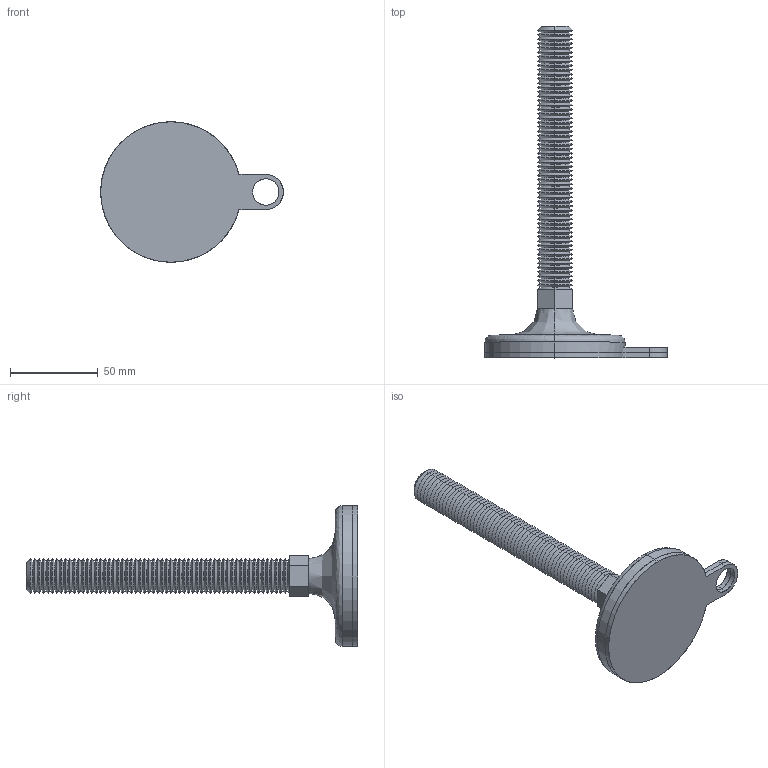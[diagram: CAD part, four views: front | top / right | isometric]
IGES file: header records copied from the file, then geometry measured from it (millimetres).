
Start section: SolidWorks IGES file using analytic representation for surfaces
Global section: file name: C:\Users\liam_\OneDrive\Documents\WORK\Work for WixRoyd\Job Files\J-00026 - Matt Davis CAD - 20191124\04. CAD Drawings\Wixroyd20191124\34704_v2\34704_v2_20191128_IGES\34704.W2002.igs; native system: SolidWorks 2017; preprocessor: SolidWorks 2017; author: liam_; date: 191128.202711; units: millimetre
Bounding box: 104 x 189 x 80 mm (x, y, z)
Surface area: 42593.6 mm2 (no closed solid volume)
Topology: 0 solids, 0 shells, 281 faces, 1756 edges, 1756 vertices
Faces by surface type: revolution 249, bspline 32
